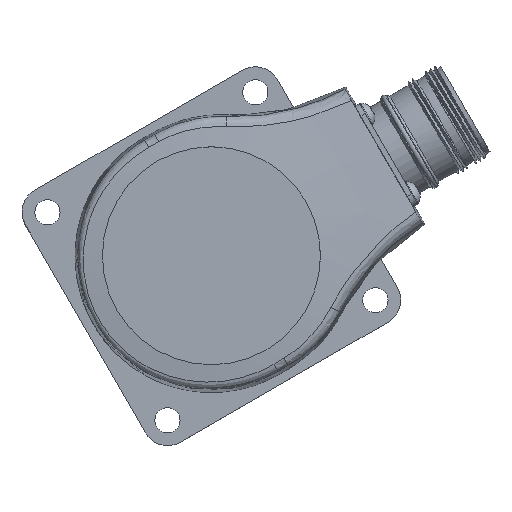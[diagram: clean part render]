
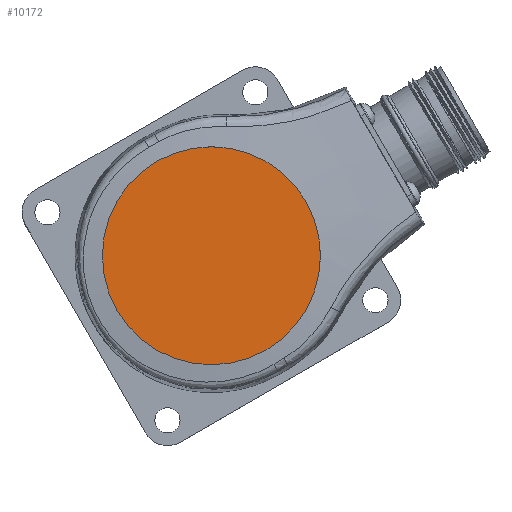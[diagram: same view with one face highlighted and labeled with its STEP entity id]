
A CAD part, top view. The second image highlights one B-rep face of the part: STEP entity #10172.
In plain terms, the highlighted planar face has unit normal (0, 0, 1).
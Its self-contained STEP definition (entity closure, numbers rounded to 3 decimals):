
#1800=ORIENTED_EDGE('',*,*,#3134,.T.);
#3134=EDGE_CURVE('',#3946,#3946,#4527,.T.);
#3946=VERTEX_POINT('',#14319);
#4527=CIRCLE('',#10847,23.794);
#5096=EDGE_LOOP('',(#1800));
#5883=FACE_BOUND('',#5096,.T.);
#6398=PLANE('',#10855);
#10172=ADVANCED_FACE('',(#5883),#6398,.T.);
#10847=AXIS2_PLACEMENT_3D('',#14318,#12157,#12158);
#10855=AXIS2_PLACEMENT_3D('',#15982,#12173,#12174);
#12157=DIRECTION('',(0.,0.,1.));
#12158=DIRECTION('',(-0.5,0.866,0.));
#12173=DIRECTION('',(0.,0.,1.));
#12174=DIRECTION('',(-0.5,0.866,0.));
#14318=CARTESIAN_POINT('',(0.,0.,42.));
#14319=CARTESIAN_POINT('',(-11.897,20.606,42.));
#15982=CARTESIAN_POINT('',(0.,0.,42.));
